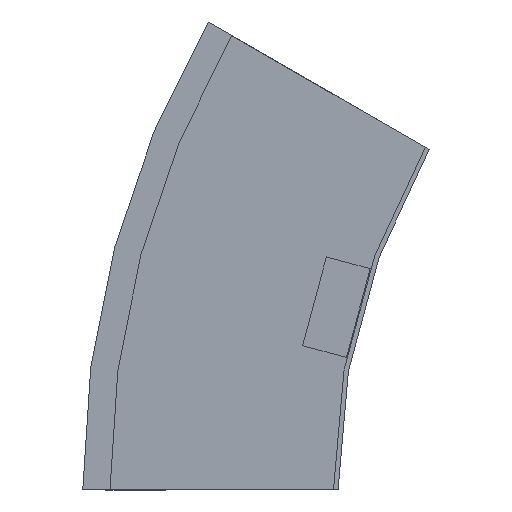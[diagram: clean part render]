
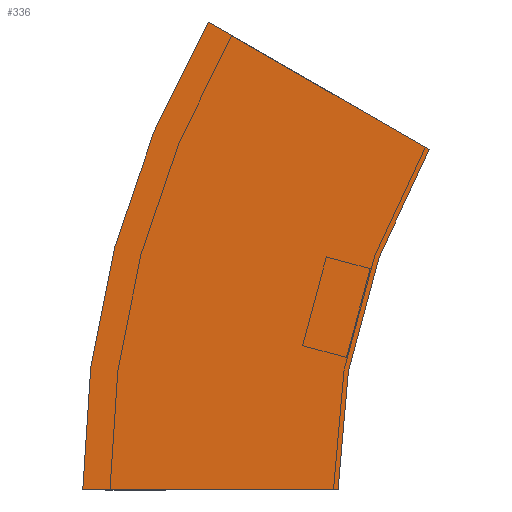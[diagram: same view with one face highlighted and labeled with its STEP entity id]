
A CAD part, left-side view. The second image highlights one B-rep face of the part: STEP entity #336.
In plain terms, the highlighted planar face has unit normal (-1, 0, 0) as drawn and (1, 0, 0) by its records, which use the part's own axes.
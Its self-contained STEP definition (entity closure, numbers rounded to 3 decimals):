
#9 = CARTESIAN_POINT ( 'NONE',  ( 0., -300., 0. ) ) ;
#23 = DIRECTION ( 'NONE',  ( 0., 0., -1. ) ) ;
#27 = DIRECTION ( 'NONE',  ( 1., 0., 0. ) ) ;
#28 = AXIS2_PLACEMENT_3D ( 'NONE', #9, #495, #451 ) ;
#36 = CARTESIAN_POINT ( 'NONE',  ( 0., -300., 0. ) ) ;
#37 = PLANE ( 'NONE',  #104 ) ;
#44 = VECTOR ( 'NONE', #404, 1000. ) ;
#63 = LINE ( 'NONE', #187, #493 ) ;
#82 = EDGE_CURVE ( 'NONE', #556, #446, #497, .T. ) ;
#102 = CIRCLE ( 'NONE', #28, 412.5 ) ;
#104 = AXIS2_PLACEMENT_3D ( 'NONE', #469, #27, #23 ) ;
#111 = FACE_OUTER_BOUND ( 'NONE', #337, .T. ) ;
#117 = AXIS2_PLACEMENT_3D ( 'NONE', #36, #276, #400 ) ;
#140 = VERTEX_POINT ( 'NONE', #324 ) ;
#154 = ORIENTED_EDGE ( 'NONE', *, *, #82, .F. ) ;
#169 = CARTESIAN_POINT ( 'NONE',  ( 0., -40.192, 150. ) ) ;
#187 = CARTESIAN_POINT ( 'NONE',  ( 0., -40.192, 150. ) ) ;
#208 = EDGE_CURVE ( 'NONE', #446, #539, #63, .T. ) ;
#276 = DIRECTION ( 'NONE',  ( 1., 0., 0. ) ) ;
#312 = LINE ( 'NONE', #490, #44 ) ;
#316 = CARTESIAN_POINT ( 'NONE',  ( 0., 0., 0. ) ) ;
#322 = DIRECTION ( 'NONE',  ( 0., 0.866, 0.5 ) ) ;
#324 = CARTESIAN_POINT ( 'NONE',  ( 0., 112.5, 0. ) ) ;
#336 = ADVANCED_FACE ( 'NONE', ( #111 ), #37, .T. ) ;
#337 = EDGE_LOOP ( 'NONE', ( #508, #448, #154, #364 ) ) ;
#364 = ORIENTED_EDGE ( 'NONE', *, *, #548, .T. ) ;
#369 = CARTESIAN_POINT ( 'NONE',  ( 0., 57.235, 206.25 ) ) ;
#400 = DIRECTION ( 'NONE',  ( 0., 1., 0. ) ) ;
#404 = DIRECTION ( 'NONE',  ( 0., 1., 0. ) ) ;
#446 = VERTEX_POINT ( 'NONE', #169 ) ;
#448 = ORIENTED_EDGE ( 'NONE', *, *, #208, .F. ) ;
#451 = DIRECTION ( 'NONE',  ( 0., 1., 0. ) ) ;
#469 = CARTESIAN_POINT ( 'NONE',  ( 0., 0., 0. ) ) ;
#490 = CARTESIAN_POINT ( 'NONE',  ( 0., 0., 0. ) ) ;
#493 = VECTOR ( 'NONE', #322, 1000. ) ;
#495 = DIRECTION ( 'NONE',  ( 1., 0., 0. ) ) ;
#497 = CIRCLE ( 'NONE', #117, 300. ) ;
#508 = ORIENTED_EDGE ( 'NONE', *, *, #562, .T. ) ;
#539 = VERTEX_POINT ( 'NONE', #369 ) ;
#548 = EDGE_CURVE ( 'NONE', #556, #140, #312, .T. ) ;
#556 = VERTEX_POINT ( 'NONE', #316 ) ;
#562 = EDGE_CURVE ( 'NONE', #140, #539, #102, .T. ) ;
